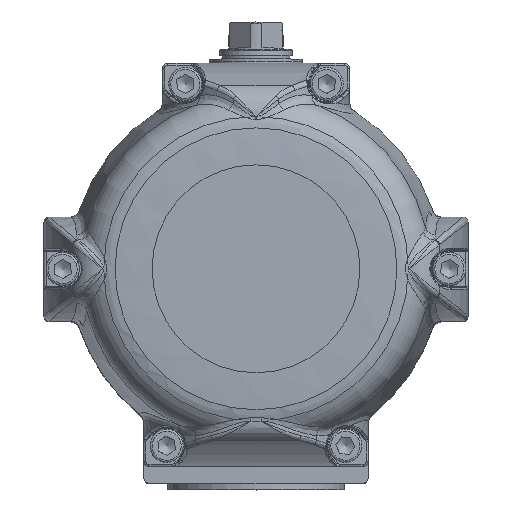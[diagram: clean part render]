
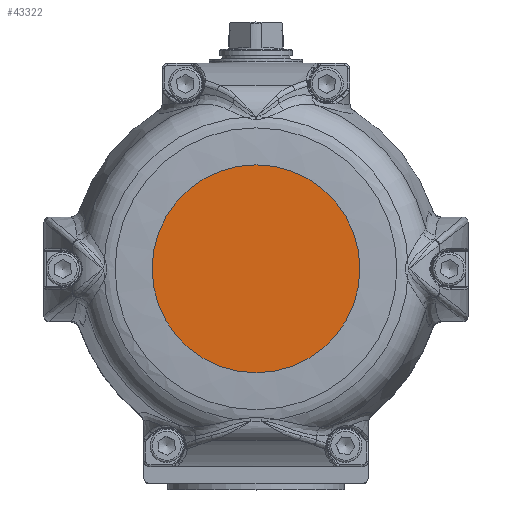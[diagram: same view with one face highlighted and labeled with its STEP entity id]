
A CAD part, top view. The second image highlights one B-rep face of the part: STEP entity #43322.
In plain terms, the highlighted planar face has unit normal (0, 0, 1).
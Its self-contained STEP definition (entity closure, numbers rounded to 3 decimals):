
#43306=CARTESIAN_POINT('',(25.,0.,182.6));
#43307=DIRECTION('',(0.0,0.0,1.0));
#43308=DIRECTION('',(-1.0,0.0,0.0));
#43309=AXIS2_PLACEMENT_3D('',#43306,#43307,#43308);
#43310=PLANE('',#43309);
#43311=CARTESIAN_POINT('',(50.,0.,182.6));
#43312=VERTEX_POINT('',#43311);
#43313=CARTESIAN_POINT('',(0.,0.,182.6));
#43314=DIRECTION('',(0.0,0.0,-1.0));
#43315=DIRECTION('',(1.0,0.0,0.0));
#43316=AXIS2_PLACEMENT_3D('',#43313,#43314,#43315);
#43317=CIRCLE('',#43316,50.0);
#43318=EDGE_CURVE('',#43312,#43312,#43317,.T.);
#43319=ORIENTED_EDGE('',*,*,#43318,.F.);
#43320=EDGE_LOOP('',(#43319));
#43321=FACE_OUTER_BOUND('',#43320,.T.);
#43322=ADVANCED_FACE('',(#43321),#43310,.T.);
